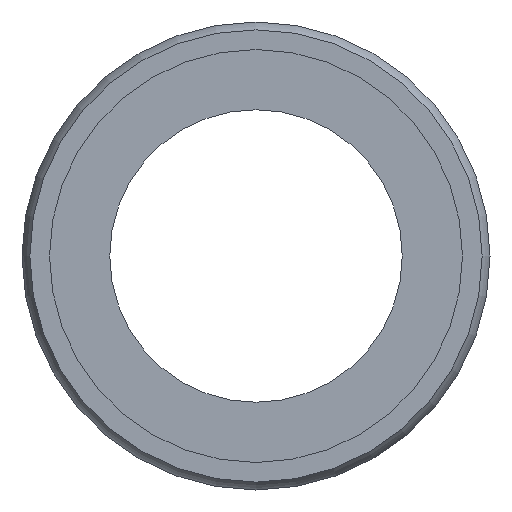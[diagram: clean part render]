
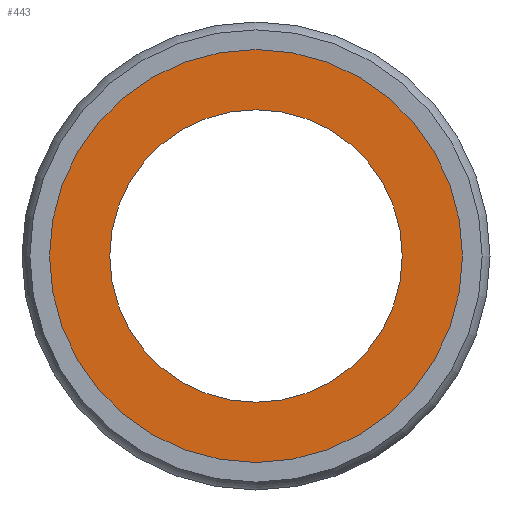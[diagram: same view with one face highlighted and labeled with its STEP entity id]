
A CAD part, left-side view. The second image highlights one B-rep face of the part: STEP entity #443.
In plain terms, the highlighted planar face has unit normal (-1, 0, 0).
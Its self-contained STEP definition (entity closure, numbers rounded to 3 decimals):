
#416=CARTESIAN_POINT('',(0.1,0.0,15.075));
#417=DIRECTION('',(-1.0,0.0,0.0));
#418=DIRECTION('',(0.0,0.0,1.0));
#419=AXIS2_PLACEMENT_3D('',#416,#417,#418);
#420=PLANE('',#419);
#421=CARTESIAN_POINT('',(0.1,0.0,17.65));
#422=VERTEX_POINT('',#421);
#423=CARTESIAN_POINT('',(0.1,0.0,0.));
#424=DIRECTION('',(1.0,0.0,0.0));
#425=DIRECTION('',(0.0,0.0,1.0));
#426=AXIS2_PLACEMENT_3D('',#423,#424,#425);
#427=CIRCLE('',#426,17.65);
#428=EDGE_CURVE('',#422,#422,#427,.T.);
#429=ORIENTED_EDGE('',*,*,#428,.F.);
#430=EDGE_LOOP('',(#429));
#431=FACE_OUTER_BOUND('',#430,.T.);
#432=CARTESIAN_POINT('',(0.1,0.0,12.5));
#433=VERTEX_POINT('',#432);
#434=CARTESIAN_POINT('',(0.1,0.0,0.));
#435=DIRECTION('',(-1.0,0.0,0.0));
#436=DIRECTION('',(0.0,0.0,1.0));
#437=AXIS2_PLACEMENT_3D('',#434,#435,#436);
#438=CIRCLE('',#437,12.5);
#439=EDGE_CURVE('',#433,#433,#438,.T.);
#440=ORIENTED_EDGE('',*,*,#439,.F.);
#441=EDGE_LOOP('',(#440));
#442=FACE_BOUND('',#441,.T.);
#443=ADVANCED_FACE('',(#431,#442),#420,.T.);
